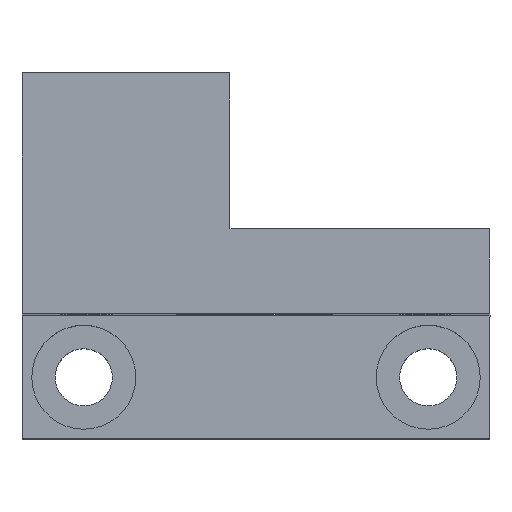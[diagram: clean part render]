
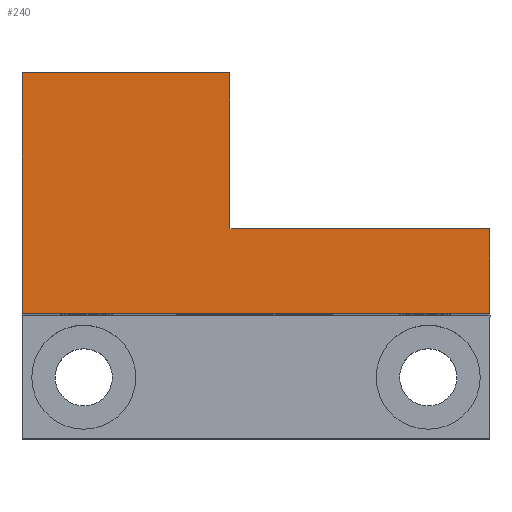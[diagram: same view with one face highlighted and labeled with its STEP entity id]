
A CAD part, top view. The second image highlights one B-rep face of the part: STEP entity #240.
In plain terms, the highlighted planar face has unit normal (0, 0, 1).
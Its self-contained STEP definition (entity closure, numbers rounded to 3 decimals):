
#240=ADVANCED_FACE('',(#337),#1016,.T.);
#337=FACE_OUTER_BOUND('',#450,.F.);
#450=EDGE_LOOP('',(#651,#652,#653,#654,#655,#656));
#651=ORIENTED_EDGE('',*,*,#1865,.T.);
#652=ORIENTED_EDGE('',*,*,#1842,.F.);
#653=ORIENTED_EDGE('',*,*,#1869,.F.);
#654=ORIENTED_EDGE('',*,*,#1874,.T.);
#655=ORIENTED_EDGE('',*,*,#1790,.T.);
#656=ORIENTED_EDGE('',*,*,#1793,.T.);
#1016=PLANE('',#2469);
#1790=EDGE_CURVE('',#2339,#2338,#2011,.T.);
#1793=EDGE_CURVE('',#2338,#2335,#2014,.T.);
#1842=EDGE_CURVE('',#2292,#2294,#2047,.T.);
#1865=EDGE_CURVE('',#2335,#2294,#2050,.T.);
#1869=EDGE_CURVE('',#2267,#2292,#2054,.T.);
#1874=EDGE_CURVE('',#2267,#2339,#2059,.T.);
#2011=LINE('',#3266,#2136);
#2014=LINE('',#3269,#2139);
#2047=LINE('',#3318,#2172);
#2050=LINE('',#3341,#2175);
#2054=LINE('',#3345,#2179);
#2059=LINE('',#3350,#2184);
#2136=VECTOR('',#2631,6.);
#2139=VECTOR('',#2634,10.);
#2172=VECTOR('',#2699,18.);
#2175=VECTOR('',#2742,3.25);
#2179=VECTOR('',#2746,9.25);
#2184=VECTOR('',#2751,8.);
#2267=VERTEX_POINT('',#3161);
#2292=VERTEX_POINT('',#3186);
#2294=VERTEX_POINT('',#3188);
#2335=VERTEX_POINT('',#3229);
#2338=VERTEX_POINT('',#3232);
#2339=VERTEX_POINT('',#3233);
#2469=AXIS2_PLACEMENT_3D('',#3416,#2844,#2845);
#2631=DIRECTION('',(0.,-1.,0.));
#2634=DIRECTION('',(1.,0.,0.));
#2699=DIRECTION('',(1.,0.,0.));
#2742=DIRECTION('',(0.,-1.,0.));
#2746=DIRECTION('',(0.,-1.,0.));
#2751=DIRECTION('',(1.,0.,0.));
#2844=DIRECTION('',(0.,0.,1.));
#2845=DIRECTION('',(0.,-1.,0.));
#3161=CARTESIAN_POINT('',(6.,-0.2,212.55));
#3186=CARTESIAN_POINT('',(6.,-9.45,212.55));
#3188=CARTESIAN_POINT('',(24.,-9.45,212.55));
#3229=CARTESIAN_POINT('',(24.,-6.2,212.55));
#3232=CARTESIAN_POINT('',(14.,-6.2,212.55));
#3233=CARTESIAN_POINT('',(14.,-0.2,212.55));
#3266=CARTESIAN_POINT('',(14.,-0.2,212.55));
#3269=CARTESIAN_POINT('',(14.,-6.2,212.55));
#3318=CARTESIAN_POINT('',(6.,-9.45,212.55));
#3341=CARTESIAN_POINT('',(24.,-6.2,212.55));
#3345=CARTESIAN_POINT('',(6.,-0.2,212.55));
#3350=CARTESIAN_POINT('',(6.,-0.2,212.55));
#3416=CARTESIAN_POINT('',(5.82,-0.02,212.55));
